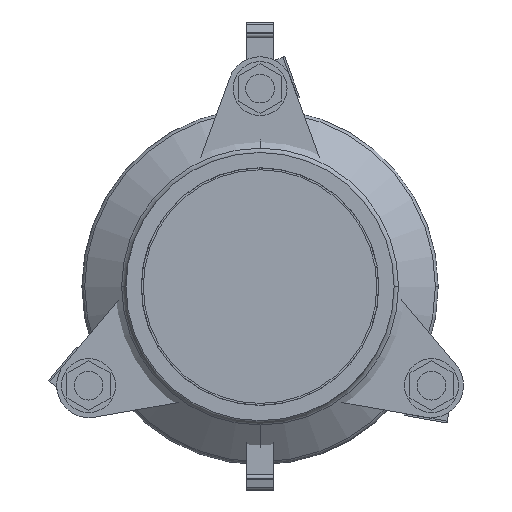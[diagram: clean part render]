
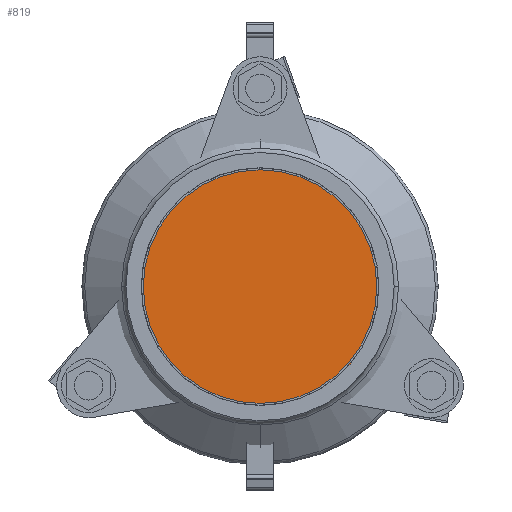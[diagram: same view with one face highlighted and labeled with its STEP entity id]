
A CAD part, left-side view. The second image highlights one B-rep face of the part: STEP entity #819.
In plain terms, the highlighted planar face has unit normal (-1, 0, 0).
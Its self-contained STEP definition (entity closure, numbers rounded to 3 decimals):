
#819=ADVANCED_FACE('',(#1652),#1653,.T.);
#1652=FACE_OUTER_BOUND('',#2751,.T.);
#1653=PLANE('',#2752);
#2751=EDGE_LOOP('',(#4049,#4050));
#2752=AXIS2_PLACEMENT_3D('',#4051,#4052,#4053);
#4049=ORIENTED_EDGE('',*,*,#6164,.T.);
#4050=ORIENTED_EDGE('',*,*,#6138,.T.);
#4051=CARTESIAN_POINT('',(89.5,0.0,0.));
#4052=DIRECTION('',(-1.0,0.0,0.));
#4053=DIRECTION('',(0.,0.0,-1.0));
#6138=EDGE_CURVE('',#7302,#7300,#7303,.T.);
#6164=EDGE_CURVE('',#7300,#7302,#7345,.T.);
#7300=VERTEX_POINT('',#8885);
#7302=VERTEX_POINT('',#8888);
#7303=CIRCLE('',#8889,76.0);
#7345=CIRCLE('',#8942,76.0);
#8885=CARTESIAN_POINT('',(89.5,0.0,-76.0));
#8888=CARTESIAN_POINT('',(89.5,0.,76.0));
#8889=AXIS2_PLACEMENT_3D('',#10407,#10408,#10409);
#8942=AXIS2_PLACEMENT_3D('',#10445,#10446,#10447);
#10407=CARTESIAN_POINT('',(89.5,0.0,0.));
#10408=DIRECTION('',(-1.0,0.0,0.));
#10409=DIRECTION('',(0.,0.0,-1.0));
#10445=CARTESIAN_POINT('',(89.5,0.0,0.));
#10446=DIRECTION('',(-1.0,0.0,0.));
#10447=DIRECTION('',(0.,0.0,-1.0));
